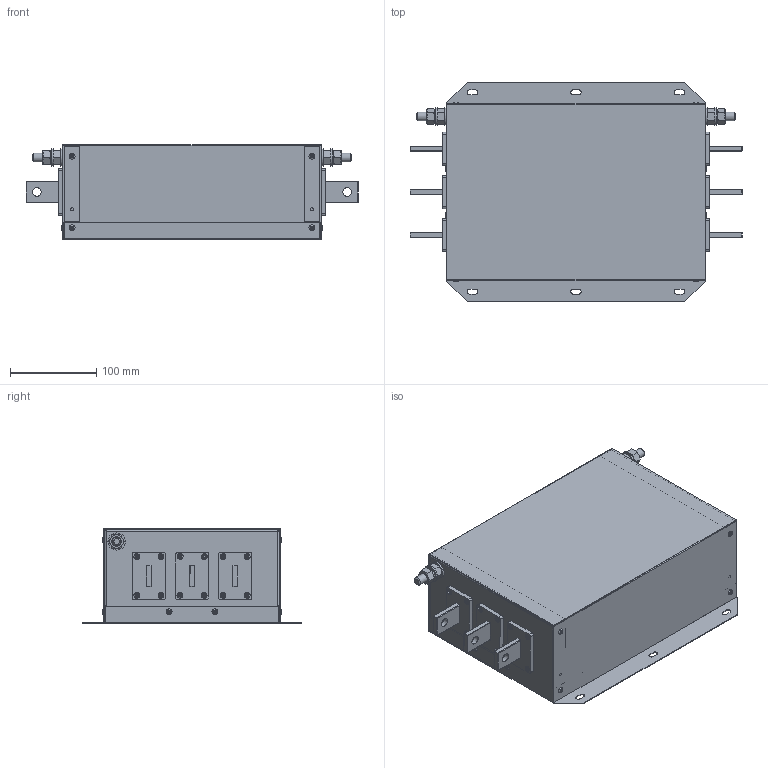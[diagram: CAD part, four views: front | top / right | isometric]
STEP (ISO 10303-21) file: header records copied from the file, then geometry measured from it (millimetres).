
FILE_DESCRIPTION(('STEP AP203'), '1');
FILE_NAME('ÝÌÑ ôèëüòð - IEF-185_344-4', '', ('UNSPECIFIED'), ('UNSPECIFIED'), 'C3D Converter', 'C3D Toolkit', '');
FILE_SCHEMA(('CONFIG_CONTROL_DESIGN'));
Length unit declared in the file: millimetre
Products named in the file (21): IEF-185_344-4; DIN 125 (A); DIN 127 (A); DIN 934; DIN 976; DIN 7337
Assembly tree (78 placements, depth 4):
  IEF-185_344-4
    IEF-185_344-4
    DIN 125 (A)  x4
      (unnamed)
    DIN 127 (A)  x2
      (unnamed)
    DIN 934  x4
      (unnamed)
    DIN 976  x2
      (unnamed)
    DIN 7337  x12
      (unnamed)
    IEF-185_344-4
      IEF-185_344-4
      IEF-185_344-4  x6
      DIN 7337  x12
        (unnamed)
      IEF-185_344-4  x3
    IEF-185_344-4
      IEF-185_344-4
      IEF-185_344-4  x6
      IEF-185_344-4  x3
      DIN 7337  x12
        (unnamed)
    IEF-185_344-4
Bounding box: 385 x 255 x 110 mm (x, y, z)
Volume: 444983.3 mm3; surface area: 657971.7 mm2
Topology: 70 solids, 70 shells, 1102 faces, 2306 edges, 1440 vertices
Faces by surface type: plane 548, cylinder 382, torus 72, cone 60, sphere 24, bspline 16
Full cylindrical faces by diameter (mm): 2.1 x36, 3.2 x36, 3.5 x100, 6.8 x48, 8.376 x4, 10 x10, 10.5 x4, 20 x4
Entity records: 14474 total; most frequent: CARTESIAN_POINT 3406, DIRECTION 1786, ORIENTED_EDGE 1512, EDGE_CURVE 756, AXIS2_PLACEMENT_3D 666, EDGE_LOOP 592, VERTEX_POINT 510, LINE 454
